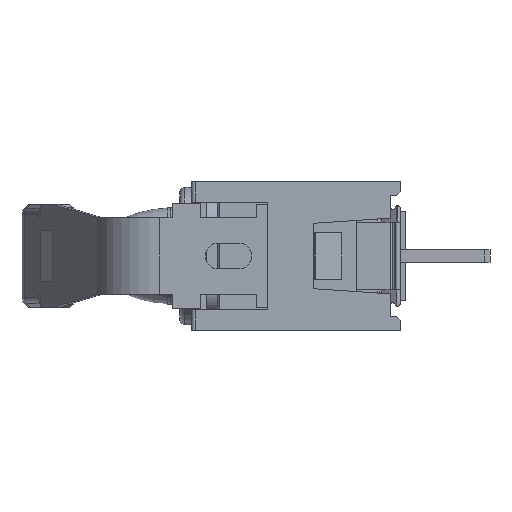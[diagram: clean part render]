
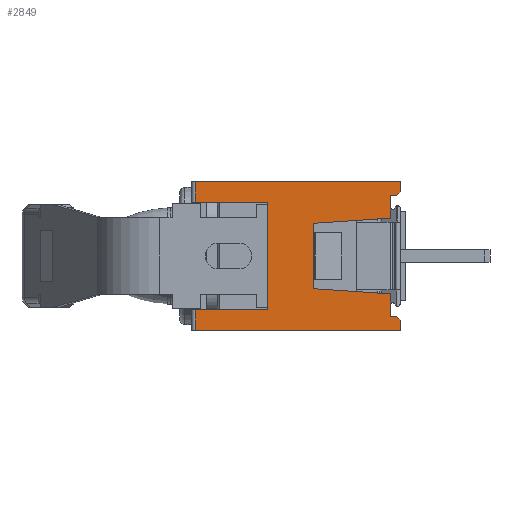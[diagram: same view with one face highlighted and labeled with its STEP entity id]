
A CAD part, left-side view. The second image highlights one B-rep face of the part: STEP entity #2849.
In plain terms, the highlighted planar face has unit normal (-1, 0, 0).
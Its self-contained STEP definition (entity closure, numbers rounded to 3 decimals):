
#2124 = EDGE_CURVE ( 'NONE', #14247, #14179, #6096, .T. ) ;
#2148 = VERTEX_POINT ( 'NONE', #6261 ) ;
#2150 = EDGE_CURVE ( 'NONE', #2353, #2148, #6260, .T. ) ;
#2353 = VERTEX_POINT ( 'NONE', #9479 ) ;
#2356 = EDGE_CURVE ( 'NONE', #14098, #2353, #9477, .T. ) ;
#2788 = VERTEX_POINT ( 'NONE', #10340 ) ;
#2789 = ORIENTED_EDGE ( 'NONE', *, *, #2790, .T. ) ;
#2790 = EDGE_CURVE ( 'NONE', #2793, #2794, #10339, .T. ) ;
#2791 = VERTEX_POINT ( 'NONE', #10335 ) ;
#2792 = EDGE_CURVE ( 'NONE', #2793, #3340, #10334, .T. ) ;
#2793 = VERTEX_POINT ( 'NONE', #10330 ) ;
#2794 = VERTEX_POINT ( 'NONE', #10329 ) ;
#2799 = ORIENTED_EDGE ( 'NONE', *, *, #2800, .T. ) ;
#2800 = EDGE_CURVE ( 'NONE', #2791, #14323, #10262, .T. ) ;
#2801 = ORIENTED_EDGE ( 'NONE', *, *, #14321, .T. ) ;
#2802 = ORIENTED_EDGE ( 'NONE', *, *, #14251, .T. ) ;
#2803 = ORIENTED_EDGE ( 'NONE', *, *, #2124, .T. ) ;
#2804 = ORIENTED_EDGE ( 'NONE', *, *, #14178, .T. ) ;
#2805 = ORIENTED_EDGE ( 'NONE', *, *, #2806, .T. ) ;
#2806 = EDGE_CURVE ( 'NONE', #14385, #2807, #10258, .T. ) ;
#2807 = VERTEX_POINT ( 'NONE', #10254 ) ;
#2808 = ORIENTED_EDGE ( 'NONE', *, *, #2809, .T. ) ;
#2809 = EDGE_CURVE ( 'NONE', #2807, #2810, #10253, .T. ) ;
#2810 = VERTEX_POINT ( 'NONE', #10221 ) ;
#2811 = VERTEX_POINT ( 'NONE', #10220 ) ;
#2849 = ADVANCED_FACE ( 'NONE', ( #10191 ), #10176, .F. ) ;
#2850 = EDGE_LOOP ( 'NONE', ( #2851, #3371, #3180, #2789, #3172, #2799, #2801, #2802, #2803, #2804, #2805, #2808, #3372, #3374, #3377, #3379, #3380, #3381 ) ) ;
#2851 = ORIENTED_EDGE ( 'NONE', *, *, #2852, .F. ) ;
#2852 = EDGE_CURVE ( 'NONE', #2788, #2148, #10170, .T. ) ;
#3172 = ORIENTED_EDGE ( 'NONE', *, *, #3173, .F. ) ;
#3173 = EDGE_CURVE ( 'NONE', #2791, #2794, #11557, .T. ) ;
#3179 = EDGE_CURVE ( 'NONE', #2788, #3340, #11544, .T. ) ;
#3180 = ORIENTED_EDGE ( 'NONE', *, *, #2792, .F. ) ;
#3340 = VERTEX_POINT ( 'NONE', #11900 ) ;
#3371 = ORIENTED_EDGE ( 'NONE', *, *, #3179, .T. ) ;
#3372 = ORIENTED_EDGE ( 'NONE', *, *, #3373, .T. ) ;
#3373 = EDGE_CURVE ( 'NONE', #2810, #2811, #12138, .T. ) ;
#3374 = ORIENTED_EDGE ( 'NONE', *, *, #3375, .T. ) ;
#3375 = EDGE_CURVE ( 'NONE', #2811, #3376, #12058, .T. ) ;
#3376 = VERTEX_POINT ( 'NONE', #12054 ) ;
#3377 = ORIENTED_EDGE ( 'NONE', *, *, #3378, .T. ) ;
#3378 = EDGE_CURVE ( 'NONE', #3376, #14097, #12052, .T. ) ;
#3379 = ORIENTED_EDGE ( 'NONE', *, *, #14096, .T. ) ;
#3380 = ORIENTED_EDGE ( 'NONE', *, *, #2356, .T. ) ;
#3381 = ORIENTED_EDGE ( 'NONE', *, *, #2150, .T. ) ;
#6093 = DIRECTION ( 'NONE',  ( 0., 0.707, 0.707 ) ) ;
#6094 = VECTOR ( 'NONE', #6093, 1000. ) ;
#6095 = CARTESIAN_POINT ( 'NONE',  ( -6.5, 0.2, -2.502 ) ) ;
#6096 = LINE ( 'NONE', #6095, #6094 ) ;
#6257 = DIRECTION ( 'NONE',  ( 0., 0., 1. ) ) ;
#6258 = VECTOR ( 'NONE', #6257, 1000. ) ;
#6259 = CARTESIAN_POINT ( 'NONE',  ( -6.5, 0.2, 2.502 ) ) ;
#6260 = LINE ( 'NONE', #6259, #6258 ) ;
#6261 = CARTESIAN_POINT ( 'NONE',  ( -6.5, 0.2, 2.9 ) ) ;
#9474 = DIRECTION ( 'NONE',  ( 0., -0.707, 0.707 ) ) ;
#9475 = VECTOR ( 'NONE', #9474, 1000. ) ;
#9476 = CARTESIAN_POINT ( 'NONE',  ( -6.5, 0.2, 2.502 ) ) ;
#9477 = LINE ( 'NONE', #9476, #9475 ) ;
#9479 = CARTESIAN_POINT ( 'NONE',  ( -6.5, 0.2, 2.502 ) ) ;
#9980 = DIRECTION ( 'NONE',  ( 0., -1., 0. ) ) ;
#9983 = VECTOR ( 'NONE', #9980, 1000. ) ;
#10169 = CARTESIAN_POINT ( 'NONE',  ( -6.5, 8.355, 2.9 ) ) ;
#10170 = LINE ( 'NONE', #10169, #9983 ) ;
#10172 = DIRECTION ( 'NONE',  ( 0., 0., -1. ) ) ;
#10173 = DIRECTION ( 'NONE',  ( 1., 0., 0. ) ) ;
#10174 = CARTESIAN_POINT ( 'NONE',  ( -6.5, 8.355, 2.9 ) ) ;
#10175 = AXIS2_PLACEMENT_3D ( 'NONE', #10174, #10173, #10172 ) ;
#10176 = PLANE ( 'NONE',  #10175 ) ;
#10191 = FACE_OUTER_BOUND ( 'NONE', #2850, .T. ) ;
#10220 = CARTESIAN_POINT ( 'NONE',  ( -6.5, 3.6, 1.275 ) ) ;
#10221 = CARTESIAN_POINT ( 'NONE',  ( -6.5, 3.6, -1.275 ) ) ;
#10222 = DIRECTION ( 'NONE',  ( 0., 0.998, 0.067 ) ) ;
#10223 = VECTOR ( 'NONE', #10222, 1000. ) ;
#10224 = CARTESIAN_POINT ( 'NONE',  ( -6.5, 0.6, -1.475 ) ) ;
#10253 = LINE ( 'NONE', #10224, #10223 ) ;
#10254 = CARTESIAN_POINT ( 'NONE',  ( -6.5, 0.6, -1.475 ) ) ;
#10255 = DIRECTION ( 'NONE',  ( 0., 0., 1. ) ) ;
#10256 = VECTOR ( 'NONE', #10255, 1000. ) ;
#10257 = CARTESIAN_POINT ( 'NONE',  ( -6.5, 0.6, -2.352 ) ) ;
#10258 = LINE ( 'NONE', #10257, #10256 ) ;
#10259 = DIRECTION ( 'NONE',  ( 0., 0., -1. ) ) ;
#10260 = VECTOR ( 'NONE', #10259, 1000. ) ;
#10261 = CARTESIAN_POINT ( 'NONE',  ( -6.5, 8.205, 2.9 ) ) ;
#10262 = LINE ( 'NONE', #10261, #10260 ) ;
#10329 = CARTESIAN_POINT ( 'NONE',  ( -6.5, 5.39, -2.095 ) ) ;
#10330 = CARTESIAN_POINT ( 'NONE',  ( -6.5, 5.39, 2.095 ) ) ;
#10331 = DIRECTION ( 'NONE',  ( 0., 1., 0. ) ) ;
#10332 = VECTOR ( 'NONE', #10331, 1000. ) ;
#10333 = CARTESIAN_POINT ( 'NONE',  ( -6.5, 8.355, 2.095 ) ) ;
#10334 = LINE ( 'NONE', #10333, #10332 ) ;
#10335 = CARTESIAN_POINT ( 'NONE',  ( -6.5, 8.205, -2.095 ) ) ;
#10336 = DIRECTION ( 'NONE',  ( 0., 0., -1. ) ) ;
#10337 = VECTOR ( 'NONE', #10336, 1000. ) ;
#10338 = CARTESIAN_POINT ( 'NONE',  ( -6.5, 5.39, -2.095 ) ) ;
#10339 = LINE ( 'NONE', #10338, #10337 ) ;
#10340 = CARTESIAN_POINT ( 'NONE',  ( -6.5, 8.205, 2.9 ) ) ;
#11541 = DIRECTION ( 'NONE',  ( 0., 0., -1. ) ) ;
#11542 = VECTOR ( 'NONE', #11541, 1000. ) ;
#11543 = CARTESIAN_POINT ( 'NONE',  ( -6.5, 8.205, 2.9 ) ) ;
#11544 = LINE ( 'NONE', #11543, #11542 ) ;
#11554 = DIRECTION ( 'NONE',  ( 0., -1., 0. ) ) ;
#11555 = VECTOR ( 'NONE', #11554, 1000. ) ;
#11556 = CARTESIAN_POINT ( 'NONE',  ( -6.5, 8.355, -2.095 ) ) ;
#11557 = LINE ( 'NONE', #11556, #11555 ) ;
#11900 = CARTESIAN_POINT ( 'NONE',  ( -6.5, 8.205, 2.095 ) ) ;
#12049 = DIRECTION ( 'NONE',  ( 0., 0., 1. ) ) ;
#12050 = VECTOR ( 'NONE', #12049, 1000. ) ;
#12051 = CARTESIAN_POINT ( 'NONE',  ( -6.5, 0.6, 1.475 ) ) ;
#12052 = LINE ( 'NONE', #12051, #12050 ) ;
#12054 = CARTESIAN_POINT ( 'NONE',  ( -6.5, 0.6, 1.475 ) ) ;
#12055 = DIRECTION ( 'NONE',  ( 0., -0.998, 0.067 ) ) ;
#12056 = VECTOR ( 'NONE', #12055, 1000. ) ;
#12057 = CARTESIAN_POINT ( 'NONE',  ( -6.5, 3.6, 1.275 ) ) ;
#12058 = LINE ( 'NONE', #12057, #12056 ) ;
#12135 = DIRECTION ( 'NONE',  ( 0., 0., 1. ) ) ;
#12136 = VECTOR ( 'NONE', #12135, 1000. ) ;
#12137 = CARTESIAN_POINT ( 'NONE',  ( -6.5, 3.6, -2.352 ) ) ;
#12138 = LINE ( 'NONE', #12137, #12136 ) ;
#14096 = EDGE_CURVE ( 'NONE', #14097, #14098, #19022, .T. ) ;
#14097 = VERTEX_POINT ( 'NONE', #18999 ) ;
#14098 = VERTEX_POINT ( 'NONE', #19011 ) ;
#14178 = EDGE_CURVE ( 'NONE', #14179, #14385, #19493, .T. ) ;
#14179 = VERTEX_POINT ( 'NONE', #19489 ) ;
#14247 = VERTEX_POINT ( 'NONE', #20003 ) ;
#14251 = EDGE_CURVE ( 'NONE', #14319, #14247, #19997, .T. ) ;
#14319 = VERTEX_POINT ( 'NONE', #19842 ) ;
#14321 = EDGE_CURVE ( 'NONE', #14323, #14319, #19841, .T. ) ;
#14323 = VERTEX_POINT ( 'NONE', #19837 ) ;
#14385 = VERTEX_POINT ( 'NONE', #20274 ) ;
#18999 = CARTESIAN_POINT ( 'NONE',  ( -6.5, 0.6, 2.352 ) ) ;
#19000 = DIRECTION ( 'NONE',  ( 0., -1., 0. ) ) ;
#19001 = VECTOR ( 'NONE', #19000, 1000. ) ;
#19011 = CARTESIAN_POINT ( 'NONE',  ( -6.5, 0.35, 2.352 ) ) ;
#19021 = CARTESIAN_POINT ( 'NONE',  ( -6.5, 7.77, 2.353 ) ) ;
#19022 = LINE ( 'NONE', #19021, #19001 ) ;
#19489 = CARTESIAN_POINT ( 'NONE',  ( -6.5, 0.35, -2.352 ) ) ;
#19490 = DIRECTION ( 'NONE',  ( 0., 1., 0. ) ) ;
#19491 = VECTOR ( 'NONE', #19490, 1000. ) ;
#19492 = CARTESIAN_POINT ( 'NONE',  ( -6.5, 7.77, -2.353 ) ) ;
#19493 = LINE ( 'NONE', #19492, #19491 ) ;
#19837 = CARTESIAN_POINT ( 'NONE',  ( -6.5, 8.205, -2.9 ) ) ;
#19838 = DIRECTION ( 'NONE',  ( 0., -1., 0. ) ) ;
#19839 = VECTOR ( 'NONE', #19838, 1000. ) ;
#19840 = CARTESIAN_POINT ( 'NONE',  ( -6.5, 8.355, -2.9 ) ) ;
#19841 = LINE ( 'NONE', #19840, #19839 ) ;
#19842 = CARTESIAN_POINT ( 'NONE',  ( -6.5, 0.2, -2.9 ) ) ;
#19994 = DIRECTION ( 'NONE',  ( 0., 0., 1. ) ) ;
#19995 = VECTOR ( 'NONE', #19994, 1000. ) ;
#19996 = CARTESIAN_POINT ( 'NONE',  ( -6.5, 0.2, -2.502 ) ) ;
#19997 = LINE ( 'NONE', #19996, #19995 ) ;
#20003 = CARTESIAN_POINT ( 'NONE',  ( -6.5, 0.2, -2.502 ) ) ;
#20274 = CARTESIAN_POINT ( 'NONE',  ( -6.5, 0.6, -2.352 ) ) ;
